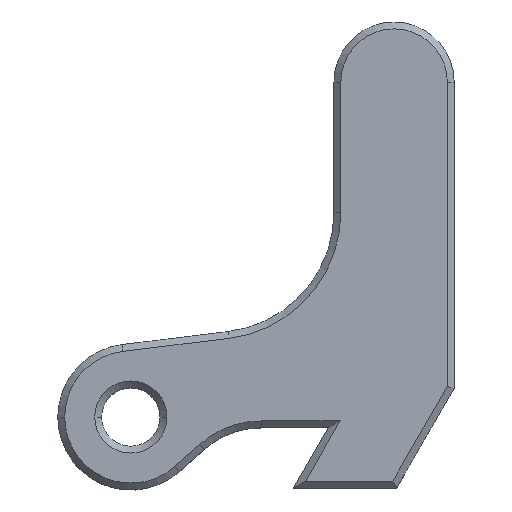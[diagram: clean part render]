
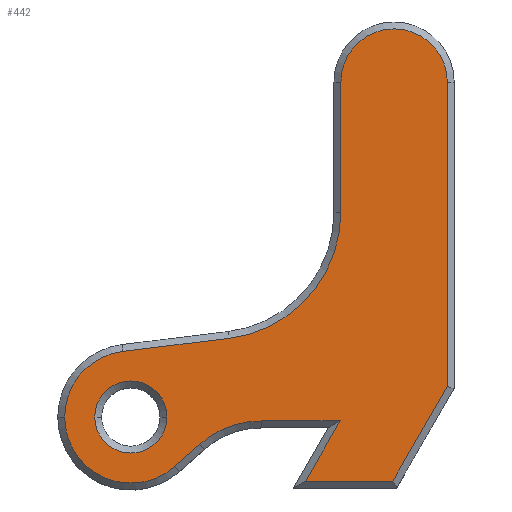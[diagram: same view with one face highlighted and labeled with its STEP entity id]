
A CAD part, top view. The second image highlights one B-rep face of the part: STEP entity #442.
In plain terms, the highlighted planar face has unit normal (0, 0, 1).
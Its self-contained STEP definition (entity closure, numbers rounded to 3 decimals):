
#10 = VECTOR ( 'NONE', #396, 1000. ) ;
#34 = CARTESIAN_POINT ( 'NONE',  ( 18.481, 1.872, 5.6 ) ) ;
#40 = LINE ( 'NONE', #34, #666 ) ;
#49 = DIRECTION ( 'NONE',  ( 0.5, 0.866, 0. ) ) ;
#61 = VERTEX_POINT ( 'NONE', #524 ) ;
#69 = DIRECTION ( 'NONE',  ( 0., 1., 0. ) ) ;
#77 = LINE ( 'NONE', #499, #907 ) ;
#120 = VECTOR ( 'NONE', #202, 1000. ) ;
#154 = DIRECTION ( 'NONE',  ( 0., 0., 1. ) ) ;
#169 = CARTESIAN_POINT ( 'NONE',  ( 0., 0., 5.6 ) ) ;
#173 = VERTEX_POINT ( 'NONE', #194 ) ;
#177 = DIRECTION ( 'NONE',  ( 0., 0., 1. ) ) ;
#180 = AXIS2_PLACEMENT_3D ( 'NONE', #169, #177, #183 ) ;
#182 = AXIS2_PLACEMENT_3D ( 'NONE', #510, #512, #518 ) ;
#183 = DIRECTION ( 'NONE',  ( 1., 0., 0. ) ) ;
#191 = AXIS2_PLACEMENT_3D ( 'NONE', #301, #306, #380 ) ;
#194 = CARTESIAN_POINT ( 'NONE',  ( 15.248, -3.728, 5.6 ) ) ;
#201 = DIRECTION ( 'NONE',  ( -0.993, -0.122, 0. ) ) ;
#202 = DIRECTION ( 'NONE',  ( 0.749, 0.663, 0. ) ) ;
#203 = AXIS2_PLACEMENT_3D ( 'NONE', #900, #809, #721 ) ;
#205 = AXIS2_PLACEMENT_3D ( 'NONE', #1183, #1168, #1080 ) ;
#223 = CARTESIAN_POINT ( 'NONE',  ( 4.015, -1.586, 5.6 ) ) ;
#226 = AXIS2_PLACEMENT_3D ( 'NONE', #733, #154, #1279 ) ;
#234 = DIRECTION ( 'NONE',  ( 1., 0., 0. ) ) ;
#236 = FACE_OUTER_BOUND ( 'NONE', #390, .T. ) ;
#239 = ORIENTED_EDGE ( 'NONE', *, *, #490, .T. ) ;
#240 = DIRECTION ( 'NONE',  ( 0., 0., -1. ) ) ;
#248 = AXIS2_PLACEMENT_3D ( 'NONE', #252, #240, #234 ) ;
#252 = CARTESIAN_POINT ( 'NONE',  ( 0., 0., 5.6 ) ) ;
#255 = VERTEX_POINT ( 'NONE', #1008 ) ;
#256 = AXIS2_PLACEMENT_3D ( 'NONE', #355, #352, #348 ) ;
#277 = CARTESIAN_POINT ( 'NONE',  ( 10.172, -3.728, 5.6 ) ) ;
#281 = CARTESIAN_POINT ( 'NONE',  ( -0.469, 3.821, 5.6 ) ) ;
#285 = CARTESIAN_POINT ( 'NONE',  ( 12.228, 0., 5.6 ) ) ;
#301 = CARTESIAN_POINT ( 'NONE',  ( 15.328, 19.5, 5.6 ) ) ;
#303 = CARTESIAN_POINT ( 'NONE',  ( 12.228, 11.927, 5.6 ) ) ;
#306 = DIRECTION ( 'NONE',  ( 0., 0., 1. ) ) ;
#317 = CIRCLE ( 'NONE', #182, 7.4 ) ;
#325 = CARTESIAN_POINT ( 'NONE',  ( 2.1, 0., 5.6 ) ) ;
#334 = CARTESIAN_POINT ( 'NONE',  ( 18.428, 1.779, 5.6 ) ) ;
#342 = CIRCLE ( 'NONE', #256, 3.85 ) ;
#348 = DIRECTION ( 'NONE',  ( 1., 0., 0. ) ) ;
#352 = DIRECTION ( 'NONE',  ( 0., 0., 1. ) ) ;
#355 = CARTESIAN_POINT ( 'NONE',  ( 0., 0., 5.6 ) ) ;
#380 = DIRECTION ( 'NONE',  ( 1., 0., 0. ) ) ;
#387 = VECTOR ( 'NONE', #647, 1000. ) ;
#390 = EDGE_LOOP ( 'NONE', ( #1273, #1271, #1259, #1277, #1289, #1307, #1166, #476, #239, #1051, #833, #608, #873 ) ) ;
#394 = EDGE_CURVE ( 'NONE', #965, #61, #342, .T. ) ;
#396 = DIRECTION ( 'NONE',  ( 0., -1., 0. ) ) ;
#401 = EDGE_CURVE ( 'NONE', #1313, #688, #1104, .T. ) ;
#409 = EDGE_LOOP ( 'NONE', ( #1052, #1004 ) ) ;
#420 = DIRECTION ( 'NONE',  ( 1., 0., 0. ) ) ;
#423 = CIRCLE ( 'NONE', #203, 5.4 ) ;
#428 = CARTESIAN_POINT ( 'NONE',  ( 18.428, 0., 5.6 ) ) ;
#442 = ADVANCED_FACE ( 'NONE', ( #496, #236 ), #927, .T. ) ;
#464 = EDGE_CURVE ( 'NONE', #688, #1313, #970, .T. ) ;
#468 = EDGE_CURVE ( 'NONE', #61, #808, #715, .T. ) ;
#470 = CARTESIAN_POINT ( 'NONE',  ( -2.1, 0., 5.6 ) ) ;
#473 = EDGE_CURVE ( 'NONE', #808, #1035, #423, .T. ) ;
#475 = EDGE_CURVE ( 'NONE', #1035, #720, #702, .T. ) ;
#476 = ORIENTED_EDGE ( 'NONE', *, *, #488, .T. ) ;
#478 = EDGE_CURVE ( 'NONE', #720, #891, #1175, .T. ) ;
#479 = EDGE_CURVE ( 'NONE', #891, #173, #77, .T. ) ;
#484 = EDGE_CURVE ( 'NONE', #173, #646, #40, .T. ) ;
#486 = EDGE_CURVE ( 'NONE', #646, #1236, #936, .T. ) ;
#488 = EDGE_CURVE ( 'NONE', #1236, #1295, #1122, .T. ) ;
#490 = EDGE_CURVE ( 'NONE', #1295, #1057, #1151, .T. ) ;
#491 = EDGE_CURVE ( 'NONE', #1057, #1058, #317, .T. ) ;
#493 = EDGE_CURVE ( 'NONE', #1058, #255, #1089, .T. ) ;
#495 = CARTESIAN_POINT ( 'NONE',  ( 4.015, -1.586, 5.6 ) ) ;
#496 = FACE_BOUND ( 'NONE', #409, .T. ) ;
#498 = EDGE_CURVE ( 'NONE', #255, #965, #620, .T. ) ;
#499 = CARTESIAN_POINT ( 'NONE',  ( 15.479, -3.728, 5.6 ) ) ;
#510 = CARTESIAN_POINT ( 'NONE',  ( 4.828, 11.927, 5.6 ) ) ;
#512 = DIRECTION ( 'NONE',  ( 0., 0., -1. ) ) ;
#518 = DIRECTION ( 'NONE',  ( 1., 0., 0. ) ) ;
#524 = CARTESIAN_POINT ( 'NONE',  ( 2.553, -2.882, 5.6 ) ) ;
#532 = CARTESIAN_POINT ( 'NONE',  ( 7.596, -0.228, 5.6 ) ) ;
#557 = CARTESIAN_POINT ( 'NONE',  ( 12.228, 19.5, 5.6 ) ) ;
#595 = VECTOR ( 'NONE', #201, 1000. ) ;
#608 = ORIENTED_EDGE ( 'NONE', *, *, #498, .T. ) ;
#620 = CIRCLE ( 'NONE', #180, 3.85 ) ;
#631 = CARTESIAN_POINT ( 'NONE',  ( 9.826, -4.328, 5.6 ) ) ;
#646 = VERTEX_POINT ( 'NONE', #334 ) ;
#647 = DIRECTION ( 'NONE',  ( 1., 0., 0. ) ) ;
#650 = CARTESIAN_POINT ( 'NONE',  ( 5.73, 4.582, 5.6 ) ) ;
#666 = VECTOR ( 'NONE', #49, 1000. ) ;
#688 = VERTEX_POINT ( 'NONE', #470 ) ;
#702 = LINE ( 'NONE', #1263, #387 ) ;
#715 = LINE ( 'NONE', #223, #120 ) ;
#720 = VERTEX_POINT ( 'NONE', #1240 ) ;
#721 = DIRECTION ( 'NONE',  ( 1., 0., 0. ) ) ;
#733 = CARTESIAN_POINT ( 'NONE',  ( 0., 0., 5.6 ) ) ;
#744 = VECTOR ( 'NONE', #912, 1000. ) ;
#808 = VERTEX_POINT ( 'NONE', #495 ) ;
#809 = DIRECTION ( 'NONE',  ( 0., 0., -1. ) ) ;
#833 = ORIENTED_EDGE ( 'NONE', *, *, #493, .T. ) ;
#847 = CARTESIAN_POINT ( 'NONE',  ( 18.428, 19.5, 5.6 ) ) ;
#873 = ORIENTED_EDGE ( 'NONE', *, *, #394, .T. ) ;
#885 = VECTOR ( 'NONE', #69, 1000. ) ;
#891 = VERTEX_POINT ( 'NONE', #277 ) ;
#900 = CARTESIAN_POINT ( 'NONE',  ( 7.596, -5.628, 5.6 ) ) ;
#907 = VECTOR ( 'NONE', #420, 1000. ) ;
#912 = DIRECTION ( 'NONE',  ( -0.5, -0.866, 0. ) ) ;
#927 = PLANE ( 'NONE',  #226 ) ;
#936 = LINE ( 'NONE', #428, #885 ) ;
#965 = VERTEX_POINT ( 'NONE', #1099 ) ;
#970 = CIRCLE ( 'NONE', #205, 2.1 ) ;
#1004 = ORIENTED_EDGE ( 'NONE', *, *, #464, .T. ) ;
#1008 = CARTESIAN_POINT ( 'NONE',  ( -0.469, 3.821, 5.6 ) ) ;
#1035 = VERTEX_POINT ( 'NONE', #532 ) ;
#1051 = ORIENTED_EDGE ( 'NONE', *, *, #491, .T. ) ;
#1052 = ORIENTED_EDGE ( 'NONE', *, *, #401, .T. ) ;
#1057 = VERTEX_POINT ( 'NONE', #303 ) ;
#1058 = VERTEX_POINT ( 'NONE', #650 ) ;
#1080 = DIRECTION ( 'NONE',  ( 1., 0., 0. ) ) ;
#1089 = LINE ( 'NONE', #281, #595 ) ;
#1099 = CARTESIAN_POINT ( 'NONE',  ( -3.85, 0., 5.6 ) ) ;
#1104 = CIRCLE ( 'NONE', #248, 2.1 ) ;
#1122 = CIRCLE ( 'NONE', #191, 3.1 ) ;
#1151 = LINE ( 'NONE', #285, #10 ) ;
#1166 = ORIENTED_EDGE ( 'NONE', *, *, #486, .T. ) ;
#1168 = DIRECTION ( 'NONE',  ( 0., 0., -1. ) ) ;
#1175 = LINE ( 'NONE', #631, #744 ) ;
#1183 = CARTESIAN_POINT ( 'NONE',  ( 0., 0., 5.6 ) ) ;
#1236 = VERTEX_POINT ( 'NONE', #847 ) ;
#1240 = CARTESIAN_POINT ( 'NONE',  ( 12.193, -0.228, 5.6 ) ) ;
#1259 = ORIENTED_EDGE ( 'NONE', *, *, #475, .T. ) ;
#1263 = CARTESIAN_POINT ( 'NONE',  ( 11.5, -0.228, 5.6 ) ) ;
#1271 = ORIENTED_EDGE ( 'NONE', *, *, #473, .T. ) ;
#1273 = ORIENTED_EDGE ( 'NONE', *, *, #468, .T. ) ;
#1277 = ORIENTED_EDGE ( 'NONE', *, *, #478, .T. ) ;
#1279 = DIRECTION ( 'NONE',  ( 1., 0., 0. ) ) ;
#1289 = ORIENTED_EDGE ( 'NONE', *, *, #479, .T. ) ;
#1295 = VERTEX_POINT ( 'NONE', #557 ) ;
#1307 = ORIENTED_EDGE ( 'NONE', *, *, #484, .T. ) ;
#1313 = VERTEX_POINT ( 'NONE', #325 ) ;
